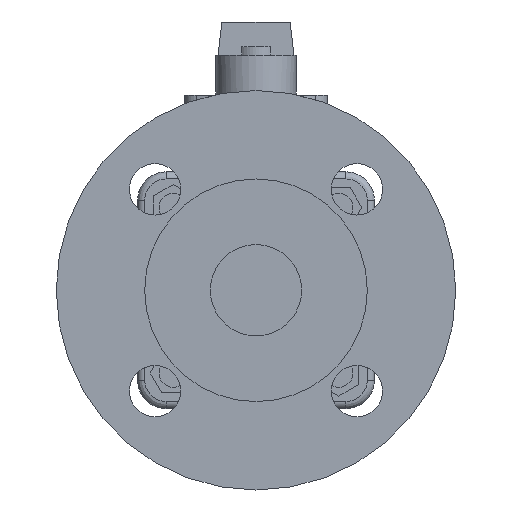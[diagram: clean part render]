
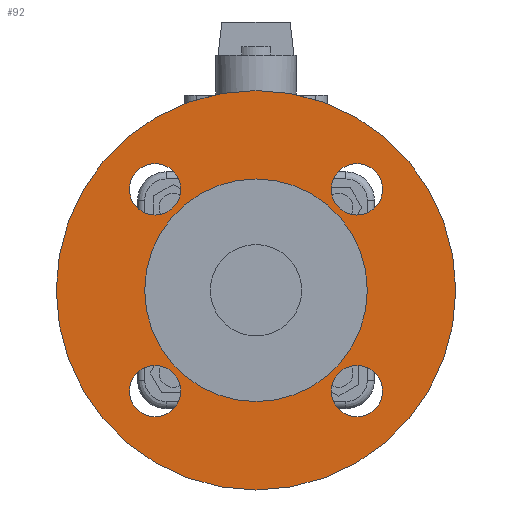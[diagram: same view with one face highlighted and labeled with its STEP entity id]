
A CAD part, left-side view. The second image highlights one B-rep face of the part: STEP entity #92.
In plain terms, the highlighted planar face has unit normal (-1, 0, 0).
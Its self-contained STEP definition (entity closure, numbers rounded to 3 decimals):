
#92=ADVANCED_FACE('',(#475,#476,#477,#478,#479,#480),#474,.T.);
#474=PLANE('',#2629);
#475=FACE_OUTER_BOUND('',#2630,.T.);
#476=FACE_BOUND('',#2631,.T.);
#477=FACE_BOUND('',#2632,.T.);
#478=FACE_BOUND('',#2633,.T.);
#479=FACE_BOUND('',#2634,.T.);
#480=FACE_BOUND('',#2635,.T.);
#2626=CARTESIAN_POINT('',(-95.3,-131.244,-150.));
#2627=DIRECTION('',(-1.,0.,0.));
#2628=DIRECTION('',(0.,0.,1.));
#2629=AXIS2_PLACEMENT_3D('',#2626,#2627,#2628);
#2630=EDGE_LOOP('',(#4192,#4193));
#2631=EDGE_LOOP('',(#4194,#4195));
#2632=EDGE_LOOP('',(#4196,#4197));
#2633=EDGE_LOOP('',(#4198,#4199));
#2634=EDGE_LOOP('',(#4200,#4201));
#2635=EDGE_LOOP('',(#4202,#4203));
#4192=ORIENTED_EDGE('',*,*,#5321,.T.);
#4193=ORIENTED_EDGE('',*,*,#5322,.T.);
#4194=ORIENTED_EDGE('',*,*,#5323,.F.);
#4195=ORIENTED_EDGE('',*,*,#5324,.F.);
#4196=ORIENTED_EDGE('',*,*,#5325,.F.);
#4197=ORIENTED_EDGE('',*,*,#5326,.F.);
#4198=ORIENTED_EDGE('',*,*,#5327,.F.);
#4199=ORIENTED_EDGE('',*,*,#5328,.F.);
#4200=ORIENTED_EDGE('',*,*,#5329,.F.);
#4201=ORIENTED_EDGE('',*,*,#5330,.F.);
#4202=ORIENTED_EDGE('',*,*,#5331,.F.);
#4203=ORIENTED_EDGE('',*,*,#5332,.F.);
#5321=EDGE_CURVE('',#6687,#6688,#6689,.T.);
#5322=EDGE_CURVE('',#6688,#6687,#6695,.T.);
#5323=EDGE_CURVE('',#6701,#6702,#6703,.T.);
#5324=EDGE_CURVE('',#6702,#6701,#6709,.T.);
#5325=EDGE_CURVE('',#6715,#6716,#6717,.T.);
#5326=EDGE_CURVE('',#6716,#6715,#6723,.T.);
#5327=EDGE_CURVE('',#6729,#6730,#6731,.T.);
#5328=EDGE_CURVE('',#6730,#6729,#6737,.T.);
#5329=EDGE_CURVE('',#6743,#6744,#6745,.T.);
#5330=EDGE_CURVE('',#6744,#6743,#6751,.T.);
#5331=EDGE_CURVE('',#6757,#6758,#6759,.T.);
#5332=EDGE_CURVE('',#6758,#6757,#6765,.T.);
#6687=VERTEX_POINT('',#10135);
#6688=VERTEX_POINT('',#10136);
#6689=CIRCLE('',#10140,70.);
#6695=CIRCLE('',#10144,70.);
#6701=VERTEX_POINT('',#10145);
#6702=VERTEX_POINT('',#10146);
#6703=CIRCLE('',#10150,39.);
#6709=CIRCLE('',#10154,39.);
#6715=VERTEX_POINT('',#10155);
#6716=VERTEX_POINT('',#10156);
#6717=CIRCLE('',#10160,9.);
#6723=CIRCLE('',#10164,9.);
#6729=VERTEX_POINT('',#10165);
#6730=VERTEX_POINT('',#10166);
#6731=CIRCLE('',#10170,9.);
#6737=CIRCLE('',#10174,9.);
#6743=VERTEX_POINT('',#10175);
#6744=VERTEX_POINT('',#10176);
#6745=CIRCLE('',#10180,9.);
#6751=CIRCLE('',#10184,9.);
#6757=VERTEX_POINT('',#10185);
#6758=VERTEX_POINT('',#10186);
#6759=CIRCLE('',#10190,9.);
#6765=CIRCLE('',#10194,9.);
#10135=CARTESIAN_POINT('',(-95.3,0.,70.));
#10136=CARTESIAN_POINT('',(-95.3,0.,-70.));
#10137=CARTESIAN_POINT('',(-95.3,0.,0.));
#10138=DIRECTION('',(-1.,0.,0.));
#10139=DIRECTION('',(0.,0.,1.));
#10140=AXIS2_PLACEMENT_3D('',#10137,#10138,#10139);
#10141=CARTESIAN_POINT('',(-95.3,0.,0.));
#10142=DIRECTION('',(-1.,0.,0.));
#10143=DIRECTION('',(0.,0.,1.));
#10144=AXIS2_PLACEMENT_3D('',#10141,#10142,#10143);
#10145=CARTESIAN_POINT('',(-95.3,0.,-39.));
#10146=CARTESIAN_POINT('',(-95.3,0.,39.));
#10147=CARTESIAN_POINT('',(-95.3,0.,0.));
#10148=DIRECTION('',(-1.,0.,0.));
#10149=DIRECTION('',(0.,0.,1.));
#10150=AXIS2_PLACEMENT_3D('',#10147,#10148,#10149);
#10151=CARTESIAN_POINT('',(-95.3,0.,0.));
#10152=DIRECTION('',(-1.,0.,0.));
#10153=DIRECTION('',(0.,0.,1.));
#10154=AXIS2_PLACEMENT_3D('',#10151,#10152,#10153);
#10155=CARTESIAN_POINT('',(-95.3,35.355,26.355));
#10156=CARTESIAN_POINT('',(-95.3,35.355,44.355));
#10157=CARTESIAN_POINT('',(-95.3,35.355,35.355));
#10158=DIRECTION('',(-1.,0.,0.));
#10159=DIRECTION('',(0.,0.,1.));
#10160=AXIS2_PLACEMENT_3D('',#10157,#10158,#10159);
#10161=CARTESIAN_POINT('',(-95.3,35.355,35.355));
#10162=DIRECTION('',(-1.,0.,0.));
#10163=DIRECTION('',(0.,0.,1.));
#10164=AXIS2_PLACEMENT_3D('',#10161,#10162,#10163);
#10165=CARTESIAN_POINT('',(-95.3,-35.355,44.355));
#10166=CARTESIAN_POINT('',(-95.3,-35.355,26.355));
#10167=CARTESIAN_POINT('',(-95.3,-35.355,35.355));
#10168=DIRECTION('',(-1.,0.,0.));
#10169=DIRECTION('',(0.,0.,-1.));
#10170=AXIS2_PLACEMENT_3D('',#10167,#10168,#10169);
#10171=CARTESIAN_POINT('',(-95.3,-35.355,35.355));
#10172=DIRECTION('',(-1.,0.,0.));
#10173=DIRECTION('',(0.,0.,-1.));
#10174=AXIS2_PLACEMENT_3D('',#10171,#10172,#10173);
#10175=CARTESIAN_POINT('',(-95.3,-35.355,-44.355));
#10176=CARTESIAN_POINT('',(-95.3,-35.355,-26.355));
#10177=CARTESIAN_POINT('',(-95.3,-35.355,-35.355));
#10178=DIRECTION('',(-1.,0.,0.));
#10179=DIRECTION('',(0.,0.,1.));
#10180=AXIS2_PLACEMENT_3D('',#10177,#10178,#10179);
#10181=CARTESIAN_POINT('',(-95.3,-35.355,-35.355));
#10182=DIRECTION('',(-1.,0.,0.));
#10183=DIRECTION('',(0.,0.,1.));
#10184=AXIS2_PLACEMENT_3D('',#10181,#10182,#10183);
#10185=CARTESIAN_POINT('',(-95.3,35.355,-26.355));
#10186=CARTESIAN_POINT('',(-95.3,35.355,-44.355));
#10187=CARTESIAN_POINT('',(-95.3,35.355,-35.355));
#10188=DIRECTION('',(-1.,0.,0.));
#10189=DIRECTION('',(0.,0.,-1.));
#10190=AXIS2_PLACEMENT_3D('',#10187,#10188,#10189);
#10191=CARTESIAN_POINT('',(-95.3,35.355,-35.355));
#10192=DIRECTION('',(-1.,0.,0.));
#10193=DIRECTION('',(0.,0.,-1.));
#10194=AXIS2_PLACEMENT_3D('',#10191,#10192,#10193);
